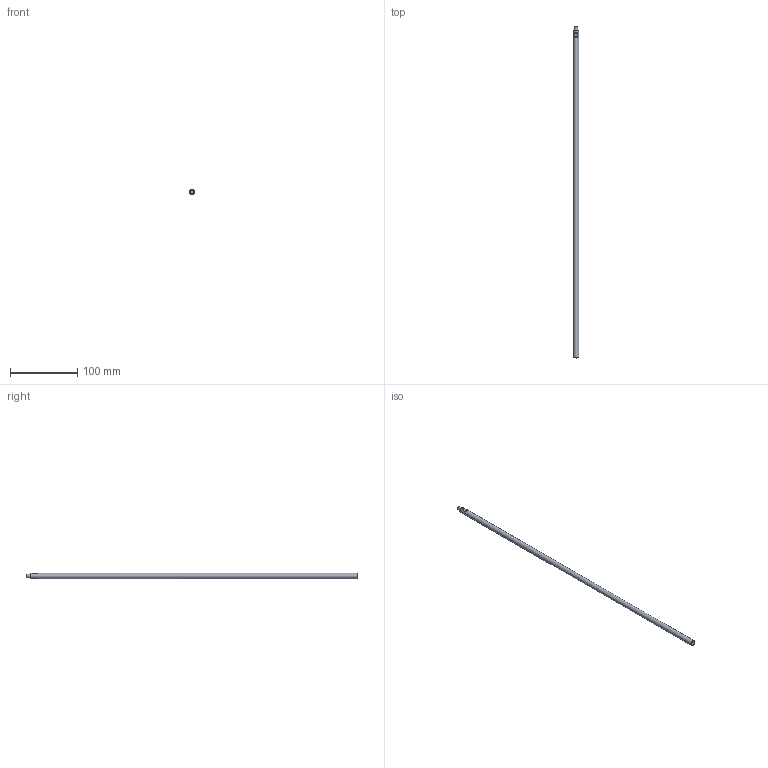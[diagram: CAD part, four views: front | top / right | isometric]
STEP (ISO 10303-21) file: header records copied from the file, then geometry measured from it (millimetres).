
FILE_DESCRIPTION( ( 'STEP AP203' ), '1' );
FILE_NAME( 'p:/temp/worker_33/temp/app_41_02018102213413413517744192d056f_000000_00_00_000000/format_3/E43227.stp', '2018-10-22T11:41:35', ( '' ), ( '' ), ' ', 'PARTsolutions', ' ' );
FILE_SCHEMA( ( 'CONFIG_CONTROL_DESIGN' ) );
Length unit declared in the file: millimetre
Products named in the file (1): _E43227
Bounding box: 8 x 495 x 8 mm (x, y, z)
Volume: 24599.6 mm3; surface area: 12461 mm2
Topology: 1 solids, 1 shells, 14 faces, 27 edges, 17 vertices
Faces by surface type: cylinder 6, plane 5, cone 3
Full cylindrical faces by diameter (mm): 5 x1, 8 x1
Entity records: 450 total; most frequent: CARTESIAN_POINT 157, DIRECTION 52, ORIENTED_EDGE 38, AXIS2_PLACEMENT_3D 22, EDGE_LOOP 22, EDGE_CURVE 19, FACE_OUTER_BOUND 16, VERTEX_POINT 15
